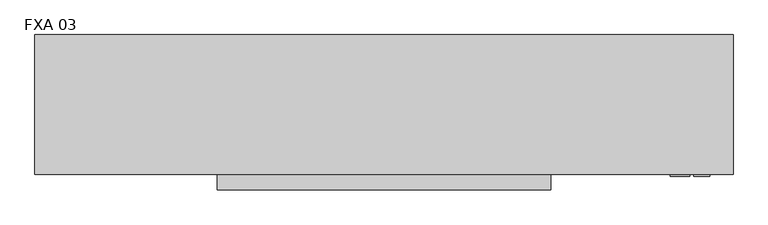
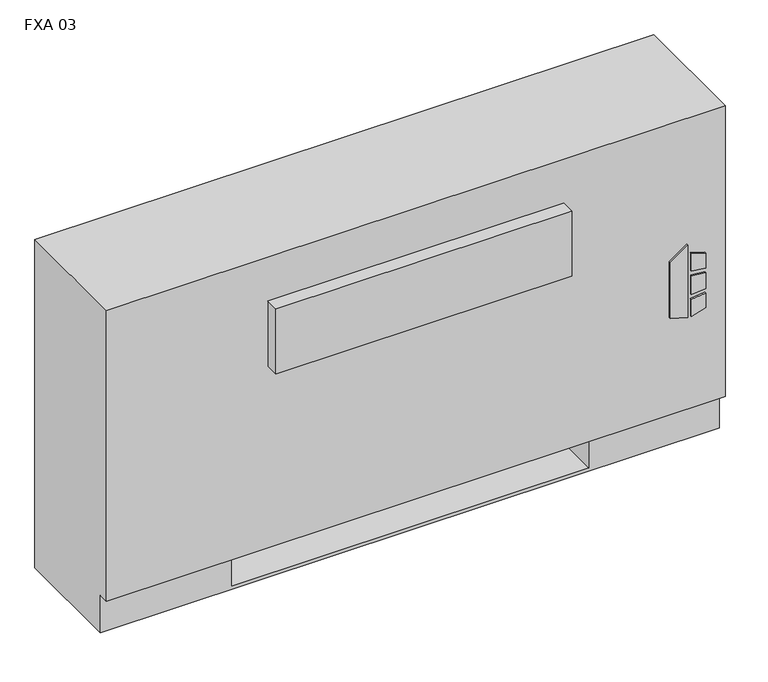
"""IFC4 building model written with IfcOpenShell, lengths in millimetres: proxy geometry, Vertical_Fan_Coil_Unit_-_FXA_-_IEC_-_4-Pipe_FS-FR_RH_2022 : FXA 03."""

import ifcopenshell
import ifcopenshell.guid

model = None  # the IFC model being written
_history = None  # IfcOwnerHistory: only IFC2X3 demands one
_inside = {}  # id of a spatial element -> (the spatial element, [elements in it])
_under = {}  # id of a project, library or spatial element -> (it, [spatial elements below it])
_declared = {}  # id of a project -> (the project, [libraries it declares])
_typed = {}  # id of a type object -> (the type object, [elements of that type])
_made_of = {}  # id of a material, layer set ... -> (it, [elements and type objects made of it])


def new_model(schema):
    """Start an empty IFC model of exactly this schema.

    Asked for "IFC4X3", IfcOpenShell would pick the latest addendum, in which some entities
    have other attributes; the version numbers below select the first issue.
    IFC2X3 requires an IfcOwnerHistory on every rooted entity: one is made here for all.
    """
    global model, _history
    if schema == "IFC4X3":
        model = ifcopenshell.file(schema_version=(4, 3, 0, 0))
    else:
        model = ifcopenshell.file(schema=schema)
    _inside.clear()
    _under.clear()
    _declared.clear()
    _typed.clear()
    _made_of.clear()
    _history = None
    if model.schema == "IFC2X3":
        org = make("IfcOrganization", Name="unknown")
        user = make(
            "IfcPersonAndOrganization",
            ThePerson=make("IfcPerson", FamilyName="unknown"),
            TheOrganization=org,
        )
        app = make(
            "IfcApplication",
            ApplicationDeveloper=org,
            Version="unknown",
            ApplicationFullName="unknown",
            ApplicationIdentifier="unknown",
        )
        _history = make(
            "IfcOwnerHistory",
            OwningUser=user,
            OwningApplication=app,
            ChangeAction="ADDED",
            CreationDate=0,
        )
    return model


def make(cls, **values):
    """One entity of the class cls with the attributes given. An attribute that is None is left unset."""
    return model.create_entity(
        cls, **{name: value for name, value in values.items() if value is not None}
    )


def rooted(cls, **values):
    """An entity with a GlobalId (a new one), such as an element, a storey or a relation."""
    return make(cls, GlobalId=ifcopenshell.guid.new(), OwnerHistory=_history, **values)


def si_unit(unit_type, name, prefix=None):
    """IfcSIUnit, for example si_unit("LENGTHUNIT", "METRE", prefix="MILLI")."""
    return make("IfcSIUnit", UnitType=unit_type, Prefix=prefix, Name=name)


def assignment(units):
    """IfcUnitAssignment: the units of a project."""
    return None if units is None else make("IfcUnitAssignment", Units=units)


def point(xyz):
    """IfcCartesianPoint."""
    return None if xyz is None else make("IfcCartesianPoint", Coordinates=xyz)


def direction(xyz):
    """IfcDirection."""
    return None if xyz is None else make("IfcDirection", DirectionRatios=xyz)


def frame(location, z_axis=None, x_axis=None):
    """IfcAxis2Placement3D, a coordinate frame: its origin and axes. An axis left out is left unset."""
    return make(
        "IfcAxis2Placement3D",
        Location=point(location),
        Axis=direction(z_axis),
        RefDirection=direction(x_axis),
    )


def frame_2d(location, x_axis=None):
    """IfcAxis2Placement2D, a coordinate frame in the plane: its origin and x axis."""
    return make(
        "IfcAxis2Placement2D", Location=point(location), RefDirection=direction(x_axis)
    )


def origin():
    """The frame at (0, 0, 0) with its axes left unset."""
    return frame((0.0, 0.0, 0.0))


def place(relative_to, where):
    """IfcLocalPlacement: puts the frame where relative to a parent placement (None: the world)."""
    return make(
        "IfcLocalPlacement", PlacementRelTo=relative_to, RelativePlacement=where
    )


def context(
    kind, dimensions, precision=None, world=None, true_north=None, identifier=None
):
    """IfcGeometricRepresentationContext, for example the 3D "Model" context."""
    return make(
        "IfcGeometricRepresentationContext",
        ContextIdentifier=identifier,
        ContextType=kind,
        CoordinateSpaceDimension=dimensions,
        Precision=precision,
        WorldCoordinateSystem=world,
        TrueNorth=true_north,
    )


def project(units=None, contexts=None):
    """IfcProject with its units and contexts."""
    return rooted(
        "IfcProject",
        Name="project",
        RepresentationContexts=contexts,
        UnitsInContext=assignment(units),
    )


def spatial(cls, under=None, at=None, **own):
    """A site, building, storey or space (cls), placed at a placement, below another one or the project."""
    s = rooted(cls, ObjectPlacement=at, **own)
    if under is not None:
        _under.setdefault(under.id(), (under, []))[1].append(s)
    return s


def polyline(points):
    """IfcPolyline through the points."""
    return make("IfcPolyline", Points=[point(p) for p in points])


def circle_curve(where, radius):
    """IfcCircle in the frame where."""
    return make("IfcCircle", Position=where, Radius=radius)


def trimmed(basis, trim1, trim2, sense, master):
    """IfcTrimmedCurve: the piece of a basis curve between two trims."""
    return make(
        "IfcTrimmedCurve",
        BasisCurve=basis,
        Trim1=trim1,
        Trim2=trim2,
        SenseAgreement=sense,
        MasterRepresentation=master,
    )


def segment(curve, same_sense, transition):
    """IfcCompositeCurveSegment."""
    return make(
        "IfcCompositeCurveSegment",
        Transition=transition,
        SameSense=same_sense,
        ParentCurve=curve,
    )


def composite_curve(segments, self_intersect=None):
    """IfcCompositeCurve: segments joined end to end."""
    return make("IfcCompositeCurve", Segments=segments, SelfIntersect=self_intersect)


def outline(outer, holes=None, kind="AREA"):
    """IfcArbitraryClosedProfileDef: a profile drawn as a closed curve; with holes, ...WithVoids."""
    if holes is None:
        return make("IfcArbitraryClosedProfileDef", ProfileType=kind, OuterCurve=outer)
    return make(
        "IfcArbitraryProfileDefWithVoids",
        ProfileType=kind,
        OuterCurve=outer,
        InnerCurves=holes,
    )


def extrude(swept, where, along, depth):
    """IfcExtrudedAreaSolid: the profile swept, set in the frame where, extruded along a direction by depth."""
    return make(
        "IfcExtrudedAreaSolid",
        SweptArea=swept,
        Position=where,
        ExtrudedDirection=direction(along),
        Depth=depth,
    )


def shape(context_of_items, identifier, shape_type, items):
    """IfcShapeRepresentation: the items that make up one representation, for example the "Body"."""
    return make(
        "IfcShapeRepresentation",
        ContextOfItems=context_of_items,
        RepresentationIdentifier=identifier,
        RepresentationType=shape_type,
        Items=items,
    )


def source(mapping_origin, context_of_items, identifier, shape_type, items):
    """IfcRepresentationMap: a shape defined once, which mapped items show again and again."""
    return make(
        "IfcRepresentationMap",
        MappingOrigin=mapping_origin,
        MappedRepresentation=shape(context_of_items, identifier, shape_type, items),
    )


def transform(
    local_origin,
    x_axis=None,
    y_axis=None,
    z_axis=None,
    scale=None,
    scale2=None,
    scale3=None,
    uniform=True,
):
    """IfcCartesianTransformationOperator3D, or its non-uniform kind. x_axis, y_axis, z_axis: its Axis1, 2, 3."""
    if uniform:
        return make(
            "IfcCartesianTransformationOperator3D",
            Axis1=direction(x_axis),
            Axis2=direction(y_axis),
            LocalOrigin=point(local_origin),
            Scale=scale,
            Axis3=direction(z_axis),
        )
    return make(
        "IfcCartesianTransformationOperator3DnonUniform",
        Axis1=direction(x_axis),
        Axis2=direction(y_axis),
        LocalOrigin=point(local_origin),
        Scale=scale,
        Axis3=direction(z_axis),
        Scale2=scale2,
        Scale3=scale3,
    )


def mapped(mapping_source, mapping_target):
    """IfcMappedItem: shows the shape of a source again, moved by a transform."""
    return make(
        "IfcMappedItem", MappingSource=mapping_source, MappingTarget=mapping_target
    )


def made_of(thing, what):
    """Note that an element or type object is made of a material, layer set ...; save() writes the relation."""
    if what is not None:
        _made_of.setdefault(what.id(), (what, []))[1].append(thing)
    return thing


def element(
    cls,
    number,
    at=None,
    inside=None,
    cuts=None,
    type_object=None,
    material=None,
    context=None,
    identifier="Body",
    shape_type=None,
    held_by="IfcProductDefinitionShape",
    body=None,
    shapes=None,
    **own,
):
    """One element of the class cls, such as IfcWall. Its Tag is "e" and its number.

    at: its placement. inside: the storey or other place that contains it. cuts: it is an
    opening in that element (IfcRelVoidsElement). A single representation is given by context,
    identifier, shape_type and body (its items); several are given by shapes. held_by: the class
    of the entity that holds the representations. save() writes the other relations.
    """
    e = rooted(cls, Tag="e%d" % number, ObjectPlacement=at, **own)
    if body is not None:
        shapes = [shape(context, identifier, shape_type, body)]
    if shapes is not None:
        e.Representation = make(held_by, Representations=shapes)
    if inside is not None:
        _inside.setdefault(inside.id(), (inside, []))[1].append(e)
    if cuts is not None:
        rooted(
            "IfcRelVoidsElement", RelatingBuildingElement=cuts, RelatedOpeningElement=e
        )
    if type_object is not None:
        _typed.setdefault(type_object.id(), (type_object, []))[1].append(e)
    return made_of(e, material)


def aggregate(whole, parts):
    """IfcRelAggregates: a whole, such as a stair, and the parts it consists of."""
    return rooted("IfcRelAggregates", RelatingObject=whole, RelatedObjects=parts)


def save(model, path):
    """Write the relations noted so far, then the file.

    IfcRelAggregates (storeys below a building ...), IfcRelContainedInSpatialStructure (elements
    in a storey), IfcRelDefinesByType, IfcRelAssociatesMaterial and IfcRelDeclares: one each for
    every whole, place, type object, material and project.
    """
    for whole, parts in _under.values():
        aggregate(whole, parts)
    for where, things in _inside.values():
        rooted(
            "IfcRelContainedInSpatialStructure",
            RelatedElements=things,
            RelatingStructure=where,
        )
    for kind, things in _typed.values():
        rooted("IfcRelDefinesByType", RelatedObjects=things, RelatingType=kind)
    for what, things in _made_of.values():
        rooted("IfcRelAssociatesMaterial", RelatedObjects=things, RelatingMaterial=what)
    for by, libraries in _declared.values():
        rooted("IfcRelDeclares", RelatingContext=by, RelatedDefinitions=libraries)
    model.write(path)


def plane_surface(at):
    """IfcPlane: the flat surface through the origin of the frame at, square to its z axis."""
    return make("IfcPlane", Position=at)


def revolved_surface(curve, axis_point, axis_direction):
    """IfcSurfaceOfRevolution: the curve turned about the line through axis_point along axis_direction."""
    return make(
        "IfcSurfaceOfRevolution",
        SweptCurve=make("IfcArbitraryOpenProfileDef", ProfileType="CURVE", Curve=curve),
        AxisPosition=make("IfcAxis1Placement", Location=point(axis_point), Axis=direction(axis_direction)),
    )


def advanced_brep(points, edges, surfaces, faces):
    """IfcAdvancedBrep: a solid bounded by faces that lie on surfaces and meet in shared edges.

    An edge is (start, end): straight between two places in points (the first is 0);
    or (start, end, curve); or (start, end, curve, False) where it runs against its curve.
    A face is (place in surfaces, loops), or (place, loops, False) where it looks against
    its surface's normal. A loop lists edges by number (the first is 1), with a minus sign
    where the edge is run from its end to its start. The first loop is the outer one.
    """
    corners = [point(p) for p in points]
    vertices = [make("IfcVertexPoint", VertexGeometry=c) for c in corners]
    made = []
    for start, end, *more in edges:
        made.append(
            make(
                "IfcEdgeCurve",
                EdgeStart=vertices[start],
                EdgeEnd=vertices[end],
                EdgeGeometry=more[0] if more else make("IfcPolyline", Points=[corners[start], corners[end]]),
                SameSense=more[1] if len(more) > 1 else True,
            )
        )
    hull = []
    for where, loops, *sense in faces:
        bounds = []
        for j, loop in enumerate(loops):
            ring = [make("IfcOrientedEdge", EdgeElement=made[abs(k) - 1], Orientation=k > 0) for k in loop]
            bounds.append(
                make(
                    "IfcFaceOuterBound" if j == 0 else "IfcFaceBound",
                    Bound=make("IfcEdgeLoop", EdgeList=ring),
                    Orientation=True,
                )
            )
        hull.append(make("IfcAdvancedFace", Bounds=bounds, FaceSurface=surfaces[where], SameSense=sense[0] if sense else True))
    return make("IfcAdvancedBrep", Outer=make("IfcClosedShell", CfsFaces=hull))


def fxa_03_4b51dc12(model_context):
    return source(origin(), model_context, "Body", "SolidModel", [
        extrude(outline(polyline([(263.9480703, 620.7868862), (254.0, 652.9602728), (396.1709244, 652.9602728), (373.1489183, 620.7868862), (263.9480703, 620.7868862)])), frame((0.0, 12.7, 0.0), z_axis=(0.0, 1.0, 0.0), x_axis=(0.0, 0.0, 1.0)), (0.0, 0.0, 1.0), 3.175),
        extrude(outline(polyline([(342.9473557, 659.7186058), (339.7449632, 685.8), (368.9738042, 685.8), (377.0382193, 659.7186058), (342.9473557, 659.7186058)])), frame((0.0, 12.7, 0.0), z_axis=(0.0, 1.0, 0.0), x_axis=(0.0, 0.0, 1.0)), (0.0, 0.0, 1.0), 3.175),
        extrude(outline(polyline([(291.0838288, 685.8), (287.4183279, 659.7186058), (254.0, 659.7186058), (262.6342372, 685.8), (291.0838288, 685.8)])), frame((0.0, 12.7, 0.0), z_axis=(0.0, 1.0, 0.0), x_axis=(0.0, 0.0, 1.0)), (0.0, 0.0, 1.0), 3.175),
        extrude(outline(polyline([(330.3989903, 685.8), (332.6808166, 659.7186058), (296.7432681, 659.7186058), (299.4845331, 685.8), (330.3989903, 685.8)])), frame((0.0, 12.7, 0.0), z_axis=(0.0, 1.0, 0.0), x_axis=(0.0, 0.0, 1.0)), (0.0, 0.0, 1.0), 3.175),
        extrude(outline(polyline([(-298.45, 81.534), (-298.45, 223.266), (-177.8, 223.266), (-177.8, 81.534), (-298.45, 81.534)])), frame((0.0, 0.0, 327.025), z_axis=(0.0, 0.0, 1.0), x_axis=(1.0, 0.0, 0.0)), (0.0, 0.0, 1.0), 260.35),
        extrude(outline(composite_curve([segment(trimmed(circle_curve(frame_2d((546.1, 130.175)), 9.525), [point((536.575, 130.175))], [point((555.625, 130.175))], False, "CARTESIAN"), True, "CONTINUOUS"), segment(trimmed(circle_curve(frame_2d((546.1, 130.175)), 9.525), [point((555.625, 130.175))], [point((536.575, 130.175))], False, "CARTESIAN"), True, "CONTINUOUS")], self_intersect=False)), frame((0.0, 0.0, 101.6), z_axis=(0.0, 0.0, 1.0), x_axis=(1.0, 0.0, 0.0)), (0.0, 0.0, 1.0), 25.4),
        extrude(outline(polyline([(647.7, 196.85), (647.7, 63.5), (482.6, 63.5), (482.6, 196.85), (647.7, 196.85)])), frame((0.0, 0.0, 127.0), z_axis=(0.0, 0.0, 1.0), x_axis=(1.0, 0.0, 0.0)), (0.0, 0.0, 1.0), 50.8),
        extrude(outline(polyline([(425.45, -9.525), (-120.65, -9.525), (-120.65, 15.875), (425.45, 15.875), (425.45, -9.525)])), frame((0.0, 0.0, 428.625), z_axis=(0.0, 0.0, 1.0), x_axis=(1.0, 0.0, 0.0)), (0.0, 0.0, 1.0), 127.0),
        extrude(outline(composite_curve([segment(trimmed(circle_curve(frame_2d((117.475, 472.44)), 7.9375), [point((117.475, 480.3775))], [point((117.475, 464.5025))], False, "CARTESIAN"), True, "CONTINUOUS"), segment(trimmed(circle_curve(frame_2d((117.475, 472.44)), 7.9375), [point((117.475, 464.5025))], [point((117.475, 480.3775))], False, "CARTESIAN"), True, "CONTINUOUS")], self_intersect=False)), frame((482.6, 0.0, 0.0), z_axis=(1.0, 0.0, 0.0), x_axis=(0.0, 1.0, 0.0)), (0.0, 0.0, 1.0), 50.8),
        extrude(outline(composite_curve([segment(trimmed(circle_curve(frame_2d((164.0586, 445.897)), 7.9375), [point((164.0586, 453.8345))], [point((164.0586, 437.9595))], False, "CARTESIAN"), True, "CONTINUOUS"), segment(trimmed(circle_curve(frame_2d((164.0586, 445.897)), 7.9375), [point((164.0586, 437.9595))], [point((164.0586, 453.8345))], False, "CARTESIAN"), True, "CONTINUOUS")], self_intersect=False)), frame((482.6, 0.0, 0.0), z_axis=(1.0, 0.0, 0.0), x_axis=(0.0, 1.0, 0.0)), (0.0, 0.0, 1.0), 50.8),
        extrude(outline(composite_curve([segment(trimmed(circle_curve(frame_2d((130.175, 554.99)), 7.9502), [point((130.175, 562.9402))], [point((130.175, 547.0398))], False, "CARTESIAN"), True, "CONTINUOUS"), segment(trimmed(circle_curve(frame_2d((130.175, 554.99)), 7.9502), [point((130.175, 547.0398))], [point((130.175, 562.9402))], False, "CARTESIAN"), True, "CONTINUOUS")], self_intersect=False)), frame((482.6, 0.0, 0.0), z_axis=(1.0, 0.0, 0.0), x_axis=(0.0, 1.0, 0.0)), (0.0, 0.0, 1.0), 50.8),
        extrude(outline(composite_curve([segment(trimmed(circle_curve(frame_2d((53.975, 416.56)), 7.9502), [point((53.975, 424.5102))], [point((53.975, 408.6098))], False, "CARTESIAN"), True, "CONTINUOUS"), segment(trimmed(circle_curve(frame_2d((53.975, 416.56)), 7.9502), [point((53.975, 408.6098))], [point((53.975, 424.5102))], False, "CARTESIAN"), True, "CONTINUOUS")], self_intersect=False)), frame((482.6, 0.0, 0.0), z_axis=(1.0, 0.0, 0.0), x_axis=(0.0, 1.0, 0.0)), (0.0, 0.0, 1.0), 50.8),
        advanced_brep(
        [(723.9, 244.475, 641.35), (-419.1, 244.475, 641.35), (-419.1, 15.875, 641.35), (723.9, 15.875, 641.35), (-419.1, 244.475, 0.0), (723.9, 244.475, 0.0), (723.9, 34.925, 0.0), (-419.1, 34.925, 0.0), (482.6, 244.475, 73.025), (711.2, 244.475, 73.025), (711.2, 244.475, 628.65), (482.6, 244.475, 628.65), (482.6, 244.475, 414.8650565), (511.175, 244.475, 414.8650565), (511.175, 244.475, 385.2349435), (482.6, 244.475, 385.2349435), (482.6, 244.475, 287.3375), (511.175, 244.475, 287.3375), (511.175, 244.475, 258.7625), (482.6, 244.475, 258.7625), (482.6, 244.475, 141.2875), (511.175, 244.475, 141.2875), (511.175, 244.475, 112.7125), (482.6, 244.475, 112.7125), (-177.8, 244.475, 628.65), (-406.4, 244.475, 628.65), (-406.4, 244.475, 73.025), (-177.8, 244.475, 73.025), (-177.8, 244.475, 112.7125), (-206.375, 244.475, 112.7125), (-206.375, 244.475, 141.2875), (-177.8, 244.475, 141.2875), (-177.8, 244.475, 258.7625), (-206.375, 244.475, 258.7625), (-206.375, 244.475, 287.3375), (-177.8, 244.475, 287.3375), (-177.8, 244.475, 385.2349435), (-206.375, 244.475, 385.2349435), (-206.375, 244.475, 414.8650565), (-177.8, 244.475, 414.8650565), (500.8626, 244.475, 127.0), (489.7374, 244.475, 127.0), (500.8626, 244.475, 400.05), (489.7374, 244.475, 400.05), (500.8626, 244.475, 273.05), (489.7374, 244.475, 273.05), (-184.9374, 244.475, 127.0), (-196.0626, 244.475, 127.0), (-184.9374, 244.475, 273.05), (-196.0626, 244.475, 273.05), (-184.9374, 244.475, 400.05), (-196.0626, 244.475, 400.05), (-419.1, 34.925, 73.025), (-419.1, 15.875, 73.025), (723.9, 15.875, 73.025), (723.9, 34.925, 73.025), (-177.8, 34.925, 73.025), (-177.8, 219.075, 73.025), (482.6, 219.075, 73.025), (482.6, 34.925, 73.025), (482.6, 34.925, 6.35), (-177.8, 34.925, 6.35), (482.6, 41.275, 628.65), (711.2, 41.275, 628.65), (711.2, 41.275, 73.025), (482.6, 41.275, 73.025), (-177.8, 41.275, 628.65), (-177.8, 41.275, 73.025), (-406.4, 41.275, 73.025), (-406.4, 41.275, 628.65), (482.6, 219.075, 73.025), (482.6, 238.125, 112.7125), (482.6, 238.125, 141.2875), (482.6, 238.125, 258.7625), (482.6, 238.125, 287.3375), (482.6, 238.125, 385.2349435), (482.6, 238.125, 414.8650565), (-177.8, 219.075, 73.025), (-177.8, 238.125, 414.8650565), (-177.8, 238.125, 385.2349435), (-177.8, 238.125, 287.3375), (-177.8, 238.125, 258.7625), (-177.8, 238.125, 141.2875), (-177.8, 238.125, 112.7125), (-177.8, 219.075, 6.35), (482.6, 219.075, 6.35), (511.175, 238.125, 112.7125), (511.175, 238.125, 141.2875), (489.7374, 238.125, 127.0), (500.8626, 238.125, 127.0), (511.175, 238.125, 258.7625), (511.175, 238.125, 287.3375), (489.7374, 238.125, 273.05), (500.8626, 238.125, 273.05), (511.175, 238.125, 385.2349435), (511.175, 238.125, 414.8650565), (489.7374, 238.125, 400.05), (500.8626, 238.125, 400.05), (-206.375, 238.125, 141.2875), (-206.375, 238.125, 112.7125), (-196.0626, 238.125, 127.0), (-184.9374, 238.125, 127.0), (-206.375, 238.125, 287.3375), (-206.375, 238.125, 258.7625), (-196.0626, 238.125, 273.05), (-184.9374, 238.125, 273.05), (-206.375, 238.125, 414.8650565), (-206.375, 238.125, 385.2349435), (-196.0626, 238.125, 400.05), (-184.9374, 238.125, 400.05)],
        [
            (0, 1),
            (1, 2),
            (2, 3),
            (3, 0),
            (4, 5),
            (5, 6),
            (6, 7),
            (7, 4),
            (0, 5),
            (4, 1),
            (8, 9),
            (9, 10),
            (10, 11),
            (11, 12),
            (12, 13),
            (13, 14),
            (14, 15),
            (15, 16),
            (16, 17),
            (17, 18),
            (18, 19),
            (19, 20),
            (20, 21),
            (21, 22),
            (22, 23),
            (23, 8),
            (24, 25),
            (25, 26),
            (26, 27),
            (27, 28),
            (28, 29),
            (29, 30),
            (30, 31),
            (31, 32),
            (32, 33),
            (33, 34),
            (34, 35),
            (35, 36),
            (36, 37),
            (37, 38),
            (38, 39),
            (39, 24),
            (40, 41, circle_curve(frame((495.3, 244.475, 127.0), z_axis=(0.0, -1.0, 0.0), x_axis=(-1.0, 0.0, 0.0)), 5.5626)),
            (41, 40, circle_curve(frame((495.3, 244.475, 127.0), z_axis=(0.0, -1.0, 0.0), x_axis=(-1.0, 0.0, 0.0)), 5.5626)),
            (42, 43, circle_curve(frame((495.3, 244.475, 400.05), z_axis=(0.0, -1.0, 0.0), x_axis=(-1.0, 0.0, 0.0)), 5.5626)),
            (43, 42, circle_curve(frame((495.3, 244.475, 400.05), z_axis=(0.0, -1.0, 0.0), x_axis=(-1.0, 0.0, 0.0)), 5.5626)),
            (44, 45, circle_curve(frame((495.3, 244.475, 273.05), z_axis=(0.0, -1.0, 0.0), x_axis=(-1.0, 0.0, 0.0)), 5.5626)),
            (45, 44, circle_curve(frame((495.3, 244.475, 273.05), z_axis=(0.0, -1.0, 0.0), x_axis=(-1.0, 0.0, 0.0)), 5.5626)),
            (46, 47, circle_curve(frame((-190.5, 244.475, 127.0), z_axis=(0.0, -1.0, 0.0), x_axis=(-1.0, 0.0, 0.0)), 5.5626)),
            (47, 46, circle_curve(frame((-190.5, 244.475, 127.0), z_axis=(0.0, -1.0, 0.0), x_axis=(-1.0, 0.0, 0.0)), 5.5626)),
            (48, 49, circle_curve(frame((-190.5, 244.475, 273.05), z_axis=(0.0, -1.0, 0.0), x_axis=(-1.0, 0.0, 0.0)), 5.5626)),
            (49, 48, circle_curve(frame((-190.5, 244.475, 273.05), z_axis=(0.0, -1.0, 0.0), x_axis=(-1.0, 0.0, 0.0)), 5.5626)),
            (50, 51, circle_curve(frame((-190.5, 244.475, 400.05), z_axis=(0.0, -1.0, 0.0), x_axis=(-1.0, 0.0, 0.0)), 5.5626)),
            (51, 50, circle_curve(frame((-190.5, 244.475, 400.05), z_axis=(0.0, -1.0, 0.0), x_axis=(-1.0, 0.0, 0.0)), 5.5626)),
            (7, 52),
            (52, 53),
            (53, 2),
            (53, 54),
            (54, 3),
            (54, 55),
            (55, 6),
            (52, 56),
            (56, 57),
            (57, 58),
            (58, 59),
            (59, 55),
            (59, 60),
            (60, 61),
            (61, 56),
            (62, 63),
            (63, 64),
            (64, 65),
            (65, 62),
            (66, 67),
            (67, 68),
            (68, 69),
            (69, 66),
            (65, 70),
            (70, 8),
            (23, 71),
            (71, 72),
            (72, 20),
            (19, 73),
            (73, 74),
            (74, 16),
            (15, 75),
            (75, 76),
            (76, 12),
            (11, 62),
            (64, 9),
            (63, 10),
            (69, 25),
            (24, 66),
            (68, 26),
            (67, 77),
            (77, 27),
            (39, 78),
            (78, 79),
            (79, 36),
            (35, 80),
            (80, 81),
            (81, 32),
            (31, 82),
            (82, 83),
            (83, 28),
            (57, 84),
            (84, 85),
            (85, 58),
            (85, 60),
            (84, 61),
            (71, 86),
            (86, 87),
            (87, 72),
            (88, 89, circle_curve(frame((495.3, 238.125, 127.0), z_axis=(0.0, 1.0, 0.0), x_axis=(-1.0, 0.0, 0.0)), 5.5626)),
            (89, 88, circle_curve(frame((495.3, 238.125, 127.0), z_axis=(0.0, 1.0, 0.0), x_axis=(-1.0, 0.0, 0.0)), 5.5626)),
            (73, 90),
            (90, 91),
            (91, 74),
            (92, 93, circle_curve(frame((495.3, 238.125, 273.05), z_axis=(0.0, 1.0, 0.0), x_axis=(-1.0, 0.0, 0.0)), 5.5626)),
            (93, 92, circle_curve(frame((495.3, 238.125, 273.05), z_axis=(0.0, 1.0, 0.0), x_axis=(-1.0, 0.0, 0.0)), 5.5626)),
            (75, 94),
            (94, 95),
            (95, 76),
            (96, 97, circle_curve(frame((495.3, 238.125, 400.05), z_axis=(0.0, 1.0, 0.0), x_axis=(-1.0, 0.0, 0.0)), 5.5626)),
            (97, 96, circle_curve(frame((495.3, 238.125, 400.05), z_axis=(0.0, 1.0, 0.0), x_axis=(-1.0, 0.0, 0.0)), 5.5626)),
            (98, 99),
            (99, 83),
            (82, 98),
            (100, 101, circle_curve(frame((-190.5, 238.125, 127.0), z_axis=(0.0, 1.0, 0.0), x_axis=(-1.0, 0.0, 0.0)), 5.5626)),
            (101, 100, circle_curve(frame((-190.5, 238.125, 127.0), z_axis=(0.0, 1.0, 0.0), x_axis=(-1.0, 0.0, 0.0)), 5.5626)),
            (102, 103),
            (103, 81),
            (80, 102),
            (104, 105, circle_curve(frame((-190.5, 238.125, 273.05), z_axis=(0.0, 1.0, 0.0), x_axis=(-1.0, 0.0, 0.0)), 5.5626)),
            (105, 104, circle_curve(frame((-190.5, 238.125, 273.05), z_axis=(0.0, 1.0, 0.0), x_axis=(-1.0, 0.0, 0.0)), 5.5626)),
            (106, 107),
            (107, 79),
            (78, 106),
            (108, 109, circle_curve(frame((-190.5, 238.125, 400.05), z_axis=(0.0, 1.0, 0.0), x_axis=(-1.0, 0.0, 0.0)), 5.5626)),
            (109, 108, circle_curve(frame((-190.5, 238.125, 400.05), z_axis=(0.0, 1.0, 0.0), x_axis=(-1.0, 0.0, 0.0)), 5.5626)),
            (87, 21),
            (86, 22),
            (91, 17),
            (90, 18),
            (95, 13),
            (94, 14),
            (30, 98),
            (99, 29),
            (34, 102),
            (103, 33),
            (38, 106),
            (107, 37),
            (88, 41),
            (40, 89),
            (96, 43),
            (42, 97),
            (92, 45),
            (44, 93),
            (100, 47),
            (46, 101),
            (104, 49),
            (48, 105),
            (108, 51),
            (50, 109),
        ],
        [
            plane_surface(frame((-419.1, 244.475, 641.35), z_axis=(0.0, 0.0, 1.0), x_axis=(-1.0, 0.0, 0.0))),
            plane_surface(frame((-419.1, 244.475, 0.0), z_axis=(0.0, 0.0, -1.0), x_axis=(1.0, 0.0, 0.0))),
            plane_surface(frame((723.9, 244.475, 641.35), z_axis=(0.0, 1.0, 0.0), x_axis=(0.0, 0.0, -1.0))),
            plane_surface(frame((-419.1, 244.475, 641.35), z_axis=(-1.0, 0.0, 0.0), x_axis=(0.0, 0.0, -1.0))),
            plane_surface(frame((-419.1, 15.875, 641.35), z_axis=(0.0, -1.0, 0.0), x_axis=(0.0, 0.0, -1.0))),
            plane_surface(frame((723.9, 15.875, 641.35), z_axis=(1.0, 0.0, 0.0), x_axis=(0.0, 0.0, -1.0))),
            plane_surface(frame((-419.1, 15.875, 73.025), z_axis=(0.0, 0.0, -1.0), x_axis=(1.0, 0.0, 0.0))),
            plane_surface(frame((-419.1, 34.925, 73.025), z_axis=(0.0, -1.0, 0.0), x_axis=(1.0, 0.0, 0.0))),
            plane_surface(frame((482.6, 41.275, 628.65), z_axis=(0.0, 1.0, 0.0), x_axis=(0.0, 0.0, -1.0))),
            plane_surface(frame((482.6, 41.275, 628.65), z_axis=(1.0, 0.0, 0.0), x_axis=(0.0, 1.0, 0.0))),
            plane_surface(frame((482.6, 41.275, 73.025), z_axis=(0.0, 0.0, 1.0), x_axis=(0.0, 1.0, 0.0))),
            plane_surface(frame((711.2, 41.275, 73.025), z_axis=(-1.0, 0.0, 0.0), x_axis=(0.0, 1.0, 0.0))),
            plane_surface(frame((711.2, 41.275, 628.65), z_axis=(0.0, 0.0, -1.0), x_axis=(0.0, 1.0, 0.0))),
            plane_surface(frame((-177.8, 41.275, 628.65), z_axis=(0.0, 0.0, -1.0), x_axis=(0.0, 1.0, 0.0))),
            plane_surface(frame((-406.4, 41.275, 628.65), z_axis=(1.0, 0.0, 0.0), x_axis=(0.0, 1.0, 0.0))),
            plane_surface(frame((-406.4, 41.275, 73.025), z_axis=(0.0, 0.0, 1.0), x_axis=(0.0, 1.0, 0.0))),
            plane_surface(frame((-177.8, 41.275, 73.025), z_axis=(-1.0, 0.0, 0.0), x_axis=(0.0, 1.0, 0.0))),
            plane_surface(frame((482.6, 219.075, 73.025), z_axis=(0.0, -1.0, 0.0), x_axis=(0.0, 0.0, -1.0))),
            plane_surface(frame((482.6, 219.075, 73.025), z_axis=(-1.0, 0.0, 0.0), x_axis=(0.0, -1.0, 0.0))),
            plane_surface(frame((482.6, 219.075, 6.35), z_axis=(0.0, 0.0, 1.0), x_axis=(0.0, -1.0, 0.0))),
            plane_surface(frame((-177.8, 219.075, 6.35), z_axis=(1.0, 0.0, 0.0), x_axis=(0.0, -1.0, 0.0))),
            plane_surface(frame((511.175, 238.125, 141.2875), z_axis=(0.0, -1.0, 0.0), x_axis=(-1.0, 0.0, 0.0))),
            plane_surface(frame((482.6, 244.475, 141.2875), z_axis=(0.0, 0.0, 1.0), x_axis=(0.0, -1.0, 0.0))),
            plane_surface(frame((511.175, 244.475, 141.2875), z_axis=(1.0, 0.0, 0.0), x_axis=(0.0, -1.0, 0.0))),
            plane_surface(frame((511.175, 244.475, 112.7125), z_axis=(0.0, 0.0, -1.0), x_axis=(0.0, -1.0, 0.0))),
            plane_surface(frame((482.6, 244.475, 287.3375), z_axis=(0.0, 0.0, 1.0), x_axis=(0.0, -1.0, 0.0))),
            plane_surface(frame((511.175, 244.475, 287.3375), z_axis=(1.0, 0.0, 0.0), x_axis=(0.0, -1.0, 0.0))),
            plane_surface(frame((511.175, 244.475, 258.7625), z_axis=(0.0, 0.0, -1.0), x_axis=(0.0, -1.0, 0.0))),
            plane_surface(frame((482.6, 244.475, 414.8650565), z_axis=(0.0, 0.0, 1.0), x_axis=(0.0, -1.0, 0.0))),
            plane_surface(frame((511.175, 244.475, 414.8650565), z_axis=(1.0, 0.0, 0.0), x_axis=(0.0, -1.0, 0.0))),
            plane_surface(frame((511.175, 244.475, 385.2349435), z_axis=(0.0, 0.0, -1.0), x_axis=(0.0, -1.0, 0.0))),
            plane_surface(frame((-206.375, 244.475, 141.2875), z_axis=(0.0, 0.0, 1.0), x_axis=(0.0, -1.0, 0.0))),
            plane_surface(frame((-177.8, 244.475, 112.7125), z_axis=(0.0, 0.0, -1.0), x_axis=(0.0, -1.0, 0.0))),
            plane_surface(frame((-206.375, 244.475, 112.7125), z_axis=(-1.0, 0.0, 0.0), x_axis=(0.0, -1.0, 0.0))),
            plane_surface(frame((-206.375, 244.475, 287.3375), z_axis=(0.0, 0.0, 1.0), x_axis=(0.0, -1.0, 0.0))),
            plane_surface(frame((-177.8, 244.475, 258.7625), z_axis=(0.0, 0.0, -1.0), x_axis=(0.0, -1.0, 0.0))),
            plane_surface(frame((-206.375, 244.475, 258.7625), z_axis=(-1.0, 0.0, 0.0), x_axis=(0.0, -1.0, 0.0))),
            plane_surface(frame((-206.375, 244.475, 414.8650565), z_axis=(0.0, 0.0, 1.0), x_axis=(0.0, -1.0, 0.0))),
            plane_surface(frame((-177.8, 244.475, 385.2349435), z_axis=(0.0, 0.0, -1.0), x_axis=(0.0, -1.0, 0.0))),
            plane_surface(frame((-206.375, 244.475, 385.2349435), z_axis=(-1.0, 0.0, 0.0), x_axis=(0.0, -1.0, 0.0))),
            revolved_surface(polyline([(489.73740000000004, 238.125, 127.0), (489.73740000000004, 244.475, 127.0)]), (495.3, 244.475, 127.0), (0.0, -1.0, 0.0)),
            revolved_surface(polyline([(489.73740000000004, 238.125, 400.05), (489.73740000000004, 244.475, 400.05)]), (495.3, 244.475, 400.05), (0.0, -1.0, 0.0)),
            revolved_surface(polyline([(489.73740000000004, 238.125, 273.05), (489.73740000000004, 244.475, 273.05)]), (495.3, 244.475, 273.05), (0.0, -1.0, 0.0)),
            revolved_surface(polyline([(-196.0626, 238.125, 127.0), (-196.0626, 244.475, 127.0)]), (-190.5, 244.475, 127.0), (0.0, -1.0, 0.0)),
            revolved_surface(polyline([(-196.0626, 238.125, 273.05), (-196.0626, 244.475, 273.05)]), (-190.5, 244.475, 273.05), (0.0, -1.0, 0.0)),
            revolved_surface(polyline([(-196.0626, 238.125, 400.05), (-196.0626, 244.475, 400.05)]), (-190.5, 244.475, 400.05), (0.0, -1.0, 0.0)),
        ],
        [
            (0, [[1, 2, 3, 4]]),
            (1, [[5, 6, 7, 8]]),
            (2, [[-1, 9, -5, 10], [11, 12, 13, 14, 15, 16, 17, 18, 19, 20, 21, 22, 23, 24, 25, 26], [27, 28, 29, 30, 31, 32, 33, 34, 35, 36, 37, 38, 39, 40, 41, 42], [43, 44], [45, 46], [47, 48], [49, 50], [51, 52], [53, 54]]),
            (3, [[-2, -10, -8, 55, 56, 57]]),
            (4, [[-3, -57, 58, 59]]),
            (5, [[-4, -59, 60, 61, -6, -9]]),
            (6, [[-56, 62, 63, 64, 65, 66, -60, -58]]),
            (7, [[-7, -61, -66, 67, 68, 69, -62, -55]]),
            (8, [[70, 71, 72, 73]]),
            (8, [[74, 75, 76, 77]]),
            (9, [[-73, 78, 79, -26, 80, 81, 82, -22, 83, 84, 85, -18, 86, 87, 88, -14, 89]]),
            (10, [[-72, 90, -11, -79, -78]]),
            (11, [[-71, 91, -12, -90]]),
            (12, [[-70, -89, -13, -91]]),
            (13, [[-77, 92, -27, 93]]),
            (14, [[-76, 94, -28, -92]]),
            (15, [[-75, 95, 96, -29, -94]]),
            (16, [[-74, -93, -42, 97, 98, 99, -38, 100, 101, 102, -34, 103, 104, 105, -30, -96, -95]]),
            (17, [[-64, 106, 107, 108]]),
            (18, [[-108, 109, -67, -65]]),
            (19, [[-107, 110, -68, -109]]),
            (20, [[-106, -63, -69, -110]]),
            (21, [[111, 112, 113, -81], [114, 115]]),
            (21, [[116, 117, 118, -84], [119, 120]]),
            (21, [[121, 122, 123, -87], [124, 125]]),
            (21, [[126, 127, -104, 128], [129, 130]]),
            (21, [[131, 132, -101, 133], [134, 135]]),
            (21, [[136, 137, -98, 138], [139, 140]]),
            (22, [[-113, 141, -23, -82]]),
            (23, [[-112, 142, -24, -141]]),
            (24, [[-111, -80, -25, -142]]),
            (25, [[-118, 143, -19, -85]]),
            (26, [[-117, 144, -20, -143]]),
            (27, [[-116, -83, -21, -144]]),
            (28, [[-123, 145, -15, -88]]),
            (29, [[-122, 146, -16, -145]]),
            (30, [[-121, -86, -17, -146]]),
            (31, [[-128, -103, -33, 147]]),
            (32, [[-127, 148, -31, -105]]),
            (33, [[-126, -147, -32, -148]]),
            (34, [[-133, -100, -37, 149]]),
            (35, [[-132, 150, -35, -102]]),
            (36, [[-131, -149, -36, -150]]),
            (37, [[-138, -97, -41, 151]]),
            (38, [[-137, 152, -39, -99]]),
            (39, [[-136, -151, -40, -152]]),
            (40, [[153, -43, 154, -114]]),
            (40, [[-153, -115, -154, -44]]),
            (41, [[155, -45, 156, -124]]),
            (41, [[-155, -125, -156, -46]]),
            (42, [[157, -47, 158, -119]]),
            (42, [[-157, -120, -158, -48]]),
            (43, [[159, -49, 160, -129]]),
            (43, [[-159, -130, -160, -50]]),
            (44, [[161, -51, 162, -134]]),
            (44, [[-161, -135, -162, -52]]),
            (45, [[163, -53, 164, -139]]),
            (45, [[-163, -140, -164, -54]]),
        ],
    ),
    ])


if __name__ == "__main__":
    model = new_model("IFC4")
    model_context = context("Model", 3, world=origin())
    ifc_project = project(units=[si_unit("LENGTHUNIT", "METRE", prefix="MILLI")], contexts=[model_context])
    site = spatial("IfcSite", under=ifc_project)
    building = spatial("IfcBuilding", under=site)
    placement = place(None, origin())
    fxa_03_shape = fxa_03_4b51dc12(model_context)
    element("IfcBuildingElementProxy", 1, Name="Vertical_Fan_Coil_Unit_-_FXA_-_IEC_-_4-Pipe_FS-FR_RH_2022 : FXA 03", ObjectType="Vertical_Fan_Coil_Unit_-_FXA_-_IEC_-_4-Pipe_FS-FR_RH_2022 : FXA 03", at=placement, inside=building, context=model_context, shape_type="MappedRepresentation", body=[
        mapped(fxa_03_shape, transform((0.0, 0.0, 0.0), x_axis=(1.0, 0.0, 0.0), y_axis=(0.0, 1.0, 0.0), z_axis=(0.0, 0.0, 1.0))),
    ])
    save(model, "model.ifc")
